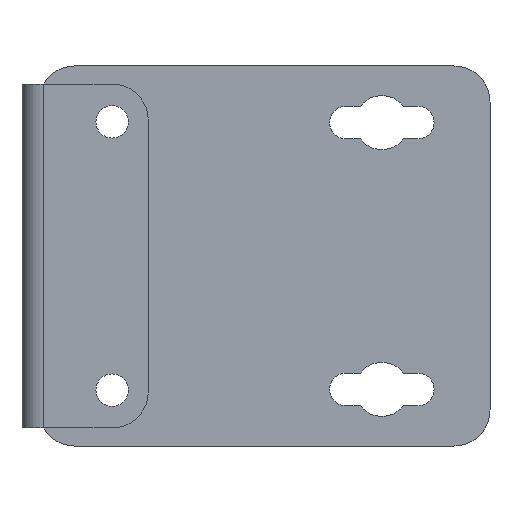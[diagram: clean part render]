
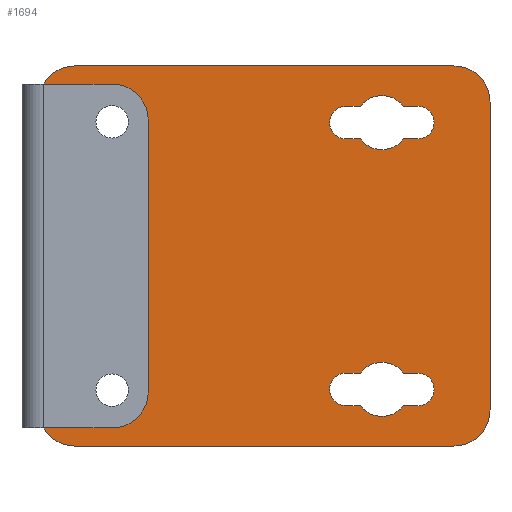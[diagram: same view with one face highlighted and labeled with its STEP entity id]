
A CAD part, front view. The second image highlights one B-rep face of the part: STEP entity #1694.
In plain terms, the highlighted planar face has unit normal (0, -1, 0).
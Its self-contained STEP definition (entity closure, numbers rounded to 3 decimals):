
#531=DIRECTION('',(0.,0.,1.));
#532=VECTOR('',#531,42.7);
#533=CARTESIAN_POINT('',(47.4,-2.,-21.35));
#534=LINE('',#533,#532);
#552=CARTESIAN_POINT('',(42.4,-2.,21.35));
#553=DIRECTION('',(0.,-1.,0.));
#554=DIRECTION('',(1.,0.,0.));
#555=AXIS2_PLACEMENT_3D('',#552,#553,#554);
#560=CARTESIAN_POINT('',(42.4,-2.,-21.35));
#561=DIRECTION('',(0.,-1.,0.));
#562=DIRECTION('',(0.,0.,-1.));
#563=AXIS2_PLACEMENT_3D('',#560,#561,#562);
#568=DIRECTION('',(1.,0.,0.));
#569=VECTOR('',#568,52.57);
#570=CARTESIAN_POINT('',(-10.17,-2.,-26.35));
#571=LINE('',#570,#569);
#575=CARTESIAN_POINT('',(-10.17,-2.,-21.35));
#576=DIRECTION('',(0.,-1.,0.));
#577=DIRECTION('',(-0.866,0.,-0.5));
#578=AXIS2_PLACEMENT_3D('',#575,#576,#577);
#583=CARTESIAN_POINT('',(-10.17,-2.,21.35));
#584=DIRECTION('',(0.,-1.,0.));
#585=DIRECTION('',(0.,0.,1.));
#586=AXIS2_PLACEMENT_3D('',#583,#584,#585);
#591=DIRECTION('',(1.,0.,0.));
#592=VECTOR('',#591,52.57);
#593=CARTESIAN_POINT('',(-10.17,-2.,26.35));
#594=LINE('',#593,#592);
#598=CARTESIAN_POINT('',(-5.,-2.,-18.6));
#599=DIRECTION('',(0.,1.,0.));
#600=DIRECTION('',(1.,0.,0.));
#601=AXIS2_PLACEMENT_3D('',#598,#599,#600);
#606=CARTESIAN_POINT('',(-5.,-2.,-18.6));
#607=DIRECTION('',(0.,1.,0.));
#608=DIRECTION('',(-1.,0.,0.));
#609=AXIS2_PLACEMENT_3D('',#606,#607,#608);
#614=CARTESIAN_POINT('',(-5.,-2.,18.6));
#615=DIRECTION('',(0.,1.,0.));
#616=DIRECTION('',(1.,0.,0.));
#617=AXIS2_PLACEMENT_3D('',#614,#615,#616);
#622=CARTESIAN_POINT('',(-5.,-2.,18.6));
#623=DIRECTION('',(0.,1.,0.));
#624=DIRECTION('',(-1.,0.,0.));
#625=AXIS2_PLACEMENT_3D('',#622,#623,#624);
#630=CARTESIAN_POINT('',(27.4,-2.,18.5));
#631=DIRECTION('',(0.,-1.,0.));
#632=DIRECTION('',(0.,0.,1.));
#633=AXIS2_PLACEMENT_3D('',#630,#631,#632);
#638=DIRECTION('',(-1.,0.,0.));
#639=VECTOR('',#638,2.);
#640=CARTESIAN_POINT('',(29.4,-2.,16.25));
#641=LINE('',#640,#639);
#645=CARTESIAN_POINT('',(32.4,-2.,18.5));
#646=DIRECTION('',(0.,-1.,0.));
#647=DIRECTION('',(-0.8,0.,-0.6));
#648=AXIS2_PLACEMENT_3D('',#645,#646,#647);
#653=DIRECTION('',(1.,0.,0.));
#654=VECTOR('',#653,2.);
#655=CARTESIAN_POINT('',(35.4,-2.,16.25));
#656=LINE('',#655,#654);
#660=CARTESIAN_POINT('',(37.4,-2.,18.5));
#661=DIRECTION('',(0.,1.,0.));
#662=DIRECTION('',(0.,0.,1.));
#663=AXIS2_PLACEMENT_3D('',#660,#661,#662);
#668=DIRECTION('',(-1.,0.,0.));
#669=VECTOR('',#668,2.);
#670=CARTESIAN_POINT('',(37.4,-2.,20.75));
#671=LINE('',#670,#669);
#675=CARTESIAN_POINT('',(32.4,-2.,18.5));
#676=DIRECTION('',(0.,-1.,0.));
#677=DIRECTION('',(0.8,0.,0.6));
#678=AXIS2_PLACEMENT_3D('',#675,#676,#677);
#683=DIRECTION('',(1.,0.,0.));
#684=VECTOR('',#683,2.);
#685=CARTESIAN_POINT('',(27.4,-2.,20.75));
#686=LINE('',#685,#684);
#690=CARTESIAN_POINT('',(27.4,-2.,-18.5));
#691=DIRECTION('',(0.,-1.,0.));
#692=DIRECTION('',(0.,0.,1.));
#693=AXIS2_PLACEMENT_3D('',#690,#691,#692);
#698=DIRECTION('',(-1.,0.,0.));
#699=VECTOR('',#698,2.);
#700=CARTESIAN_POINT('',(29.4,-2.,-20.75));
#701=LINE('',#700,#699);
#705=CARTESIAN_POINT('',(32.4,-2.,-18.5));
#706=DIRECTION('',(0.,-1.,0.));
#707=DIRECTION('',(-0.8,0.,-0.6));
#708=AXIS2_PLACEMENT_3D('',#705,#706,#707);
#713=DIRECTION('',(1.,0.,0.));
#714=VECTOR('',#713,2.);
#715=CARTESIAN_POINT('',(35.4,-2.,-20.75));
#716=LINE('',#715,#714);
#720=CARTESIAN_POINT('',(37.4,-2.,-18.5));
#721=DIRECTION('',(0.,1.,0.));
#722=DIRECTION('',(0.,0.,1.));
#723=AXIS2_PLACEMENT_3D('',#720,#721,#722);
#728=DIRECTION('',(-1.,0.,0.));
#729=VECTOR('',#728,2.);
#730=CARTESIAN_POINT('',(37.4,-2.,-16.25));
#731=LINE('',#730,#729);
#735=CARTESIAN_POINT('',(32.4,-2.,-18.5));
#736=DIRECTION('',(0.,-1.,0.));
#737=DIRECTION('',(0.8,0.,0.6));
#738=AXIS2_PLACEMENT_3D('',#735,#736,#737);
#743=DIRECTION('',(1.,0.,0.));
#744=VECTOR('',#743,2.);
#745=CARTESIAN_POINT('',(27.4,-2.,-16.25));
#746=LINE('',#745,#744);
#773=DIRECTION('',(0.,0.,1.));
#774=VECTOR('',#773,47.7);
#775=CARTESIAN_POINT('',(-14.5,-2.,-23.85));
#776=LINE('',#775,#774);
#1112=CARTESIAN_POINT('',(-1.,-2.,18.6));
#1113=CARTESIAN_POINT('',(-9.,-2.,18.6));
#1114=VERTEX_POINT('',#1112);
#1115=VERTEX_POINT('',#1113);
#1116=CARTESIAN_POINT('',(-1.,-2.,-18.6));
#1117=CARTESIAN_POINT('',(-9.,-2.,-18.6));
#1118=VERTEX_POINT('',#1116);
#1119=VERTEX_POINT('',#1117);
#1148=CARTESIAN_POINT('',(47.4,-2.,21.35));
#1149=VERTEX_POINT('',#1148);
#1150=CARTESIAN_POINT('',(42.4,-2.,26.35));
#1151=VERTEX_POINT('',#1150);
#1156=CARTESIAN_POINT('',(42.4,-2.,-26.35));
#1157=VERTEX_POINT('',#1156);
#1158=CARTESIAN_POINT('',(47.4,-2.,-21.35));
#1159=VERTEX_POINT('',#1158);
#1164=CARTESIAN_POINT('',(-10.17,-2.,26.35));
#1165=VERTEX_POINT('',#1164);
#1166=CARTESIAN_POINT('',(-14.5,-2.,23.85));
#1167=VERTEX_POINT('',#1166);
#1172=CARTESIAN_POINT('',(-14.5,-2.,-23.85));
#1173=VERTEX_POINT('',#1172);
#1174=CARTESIAN_POINT('',(-10.17,-2.,-26.35));
#1175=VERTEX_POINT('',#1174);
#1180=CARTESIAN_POINT('',(37.4,-2.,20.75));
#1181=CARTESIAN_POINT('',(37.4,-2.,16.25));
#1182=VERTEX_POINT('',#1180);
#1183=VERTEX_POINT('',#1181);
#1188=CARTESIAN_POINT('',(37.4,-2.,-16.25));
#1189=CARTESIAN_POINT('',(37.4,-2.,-20.75));
#1190=VERTEX_POINT('',#1188);
#1191=VERTEX_POINT('',#1189);
#1216=CARTESIAN_POINT('',(35.4,-2.,20.75));
#1217=VERTEX_POINT('',#1216);
#1218=CARTESIAN_POINT('',(35.4,-2.,16.25));
#1219=VERTEX_POINT('',#1218);
#1220=CARTESIAN_POINT('',(35.4,-2.,-16.25));
#1221=VERTEX_POINT('',#1220);
#1222=CARTESIAN_POINT('',(35.4,-2.,-20.75));
#1223=VERTEX_POINT('',#1222);
#1240=CARTESIAN_POINT('',(27.4,-2.,-16.25));
#1241=CARTESIAN_POINT('',(27.4,-2.,-20.75));
#1242=VERTEX_POINT('',#1240);
#1243=VERTEX_POINT('',#1241);
#1244=CARTESIAN_POINT('',(29.4,-2.,-16.25));
#1245=VERTEX_POINT('',#1244);
#1246=CARTESIAN_POINT('',(29.4,-2.,-20.75));
#1247=VERTEX_POINT('',#1246);
#1248=CARTESIAN_POINT('',(27.4,-2.,20.75));
#1249=CARTESIAN_POINT('',(27.4,-2.,16.25));
#1250=VERTEX_POINT('',#1248);
#1251=VERTEX_POINT('',#1249);
#1252=CARTESIAN_POINT('',(29.4,-2.,20.75));
#1253=VERTEX_POINT('',#1252);
#1254=CARTESIAN_POINT('',(29.4,-2.,16.25));
#1255=VERTEX_POINT('',#1254);
#1628=CARTESIAN_POINT('',(47.4,-2.,-23.85));
#1629=DIRECTION('',(0.,1.,0.));
#1630=DIRECTION('',(-1.,0.,0.));
#1631=AXIS2_PLACEMENT_3D('',#1628,#1629,#1630);
#1632=PLANE('',#1631);
#1633=ORIENTED_EDGE('',*,*,#1580,.F.);
#1634=ORIENTED_EDGE('',*,*,#1596,.F.);
#1635=ORIENTED_EDGE('',*,*,#1609,.F.);
#1636=ORIENTED_EDGE('',*,*,#1623,.F.);
#1637=ORIENTED_EDGE('',*,*,#1494,.F.);
#1639=ORIENTED_EDGE('',*,*,#1638,.T.);
#1641=ORIENTED_EDGE('',*,*,#1640,.F.);
#1643=ORIENTED_EDGE('',*,*,#1642,.T.);
#1644=EDGE_LOOP('',(#1633,#1634,#1635,#1636,#1637,#1639,#1641,#1643));
#1645=FACE_OUTER_BOUND('',#1644,.F.);
#1647=ORIENTED_EDGE('',*,*,#1646,.F.);
#1649=ORIENTED_EDGE('',*,*,#1648,.F.);
#1650=EDGE_LOOP('',(#1647,#1649));
#1651=FACE_BOUND('',#1650,.F.);
#1653=ORIENTED_EDGE('',*,*,#1652,.F.);
#1655=ORIENTED_EDGE('',*,*,#1654,.F.);
#1656=EDGE_LOOP('',(#1653,#1655));
#1657=FACE_BOUND('',#1656,.F.);
#1659=ORIENTED_EDGE('',*,*,#1658,.T.);
#1661=ORIENTED_EDGE('',*,*,#1660,.F.);
#1663=ORIENTED_EDGE('',*,*,#1662,.T.);
#1665=ORIENTED_EDGE('',*,*,#1664,.T.);
#1667=ORIENTED_EDGE('',*,*,#1666,.F.);
#1669=ORIENTED_EDGE('',*,*,#1668,.T.);
#1671=ORIENTED_EDGE('',*,*,#1670,.T.);
#1673=ORIENTED_EDGE('',*,*,#1672,.F.);
#1674=EDGE_LOOP('',(#1659,#1661,#1663,#1665,#1667,#1669,#1671,#1673));
#1675=FACE_BOUND('',#1674,.F.);
#1677=ORIENTED_EDGE('',*,*,#1676,.T.);
#1679=ORIENTED_EDGE('',*,*,#1678,.F.);
#1681=ORIENTED_EDGE('',*,*,#1680,.T.);
#1683=ORIENTED_EDGE('',*,*,#1682,.T.);
#1685=ORIENTED_EDGE('',*,*,#1684,.F.);
#1687=ORIENTED_EDGE('',*,*,#1686,.T.);
#1689=ORIENTED_EDGE('',*,*,#1688,.T.);
#1691=ORIENTED_EDGE('',*,*,#1690,.F.);
#1692=EDGE_LOOP('',(#1677,#1679,#1681,#1683,#1685,#1687,#1689,#1691));
#1693=FACE_BOUND('',#1692,.F.);
#556=CIRCLE('',#555,5.);
#564=CIRCLE('',#563,5.);
#579=CIRCLE('',#578,5.);
#587=CIRCLE('',#586,5.);
#602=CIRCLE('',#601,4.);
#610=CIRCLE('',#609,4.);
#618=CIRCLE('',#617,4.);
#626=CIRCLE('',#625,4.);
#634=CIRCLE('',#633,2.25);
#649=CIRCLE('',#648,3.75);
#664=CIRCLE('',#663,2.25);
#679=CIRCLE('',#678,3.75);
#694=CIRCLE('',#693,2.25);
#709=CIRCLE('',#708,3.75);
#724=CIRCLE('',#723,2.25);
#739=CIRCLE('',#738,3.75);
#1494=EDGE_CURVE('',#1173,#1175,#579,.T.);
#1580=EDGE_CURVE('',#1149,#1151,#556,.T.);
#1596=EDGE_CURVE('',#1159,#1149,#534,.T.);
#1609=EDGE_CURVE('',#1157,#1159,#564,.T.);
#1623=EDGE_CURVE('',#1175,#1157,#571,.T.);
#1638=EDGE_CURVE('',#1173,#1167,#776,.T.);
#1640=EDGE_CURVE('',#1165,#1167,#587,.T.);
#1642=EDGE_CURVE('',#1165,#1151,#594,.T.);
#1646=EDGE_CURVE('',#1118,#1119,#602,.T.);
#1648=EDGE_CURVE('',#1119,#1118,#610,.T.);
#1652=EDGE_CURVE('',#1114,#1115,#618,.T.);
#1654=EDGE_CURVE('',#1115,#1114,#626,.T.);
#1658=EDGE_CURVE('',#1250,#1251,#634,.T.);
#1660=EDGE_CURVE('',#1255,#1251,#641,.T.);
#1662=EDGE_CURVE('',#1255,#1219,#649,.T.);
#1664=EDGE_CURVE('',#1219,#1183,#656,.T.);
#1666=EDGE_CURVE('',#1182,#1183,#664,.T.);
#1668=EDGE_CURVE('',#1182,#1217,#671,.T.);
#1670=EDGE_CURVE('',#1217,#1253,#679,.T.);
#1672=EDGE_CURVE('',#1250,#1253,#686,.T.);
#1676=EDGE_CURVE('',#1242,#1243,#694,.T.);
#1678=EDGE_CURVE('',#1247,#1243,#701,.T.);
#1680=EDGE_CURVE('',#1247,#1223,#709,.T.);
#1682=EDGE_CURVE('',#1223,#1191,#716,.T.);
#1684=EDGE_CURVE('',#1190,#1191,#724,.T.);
#1686=EDGE_CURVE('',#1190,#1221,#731,.T.);
#1688=EDGE_CURVE('',#1221,#1245,#739,.T.);
#1690=EDGE_CURVE('',#1242,#1245,#746,.T.);
#1694=ADVANCED_FACE('',(#1645,#1651,#1657,#1675,#1693),#1632,.F.);
